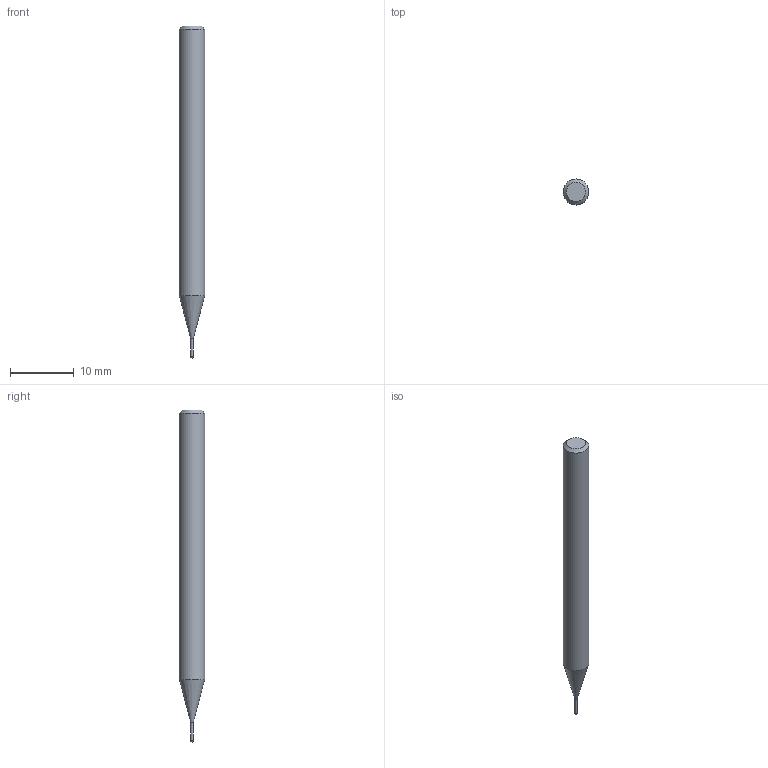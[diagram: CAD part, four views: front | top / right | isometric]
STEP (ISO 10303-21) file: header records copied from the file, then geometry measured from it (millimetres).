
FILE_DESCRIPTION((''),'2;1');
FILE_NAME('C:\Users\nsx150\AppData\Local\Temp\Mastercam 2021\LJSIDMOTM8\TEMP.step','2021-08-03T14:23:49',(''),(''),'STEP Write','Mastercam 2021 ... CNC Software, Inc.','');
FILE_SCHEMA(('AUTOMOTIVE_DESIGN'));
Length unit declared in the file: millimetre
Products named in the file (1): None
Bounding box: 4 x 4 x 52 mm (x, y, z)
Volume: 560.8 mm3; surface area: 591.1 mm2
Topology: 2 solids, 2 shells, 9 faces, 14 edges, 8 vertices
Faces by surface type: plane 3, cylinder 3, cone 2, sphere 1
Full cylindrical faces by diameter (mm): 0.37 x1, 0.4 x1, 4 x1
Entity records: 211 total; most frequent: DIRECTION 36, CARTESIAN_POINT 25, AXIS2_PLACEMENT_3D 18, ORIENTED_EDGE 14, EDGE_LOOP 14, STYLED_ITEM 12, ADVANCED_FACE 9, FACE_BOUND 8
